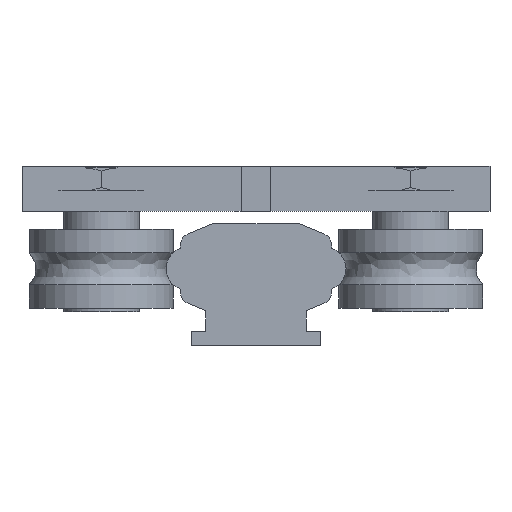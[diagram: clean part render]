
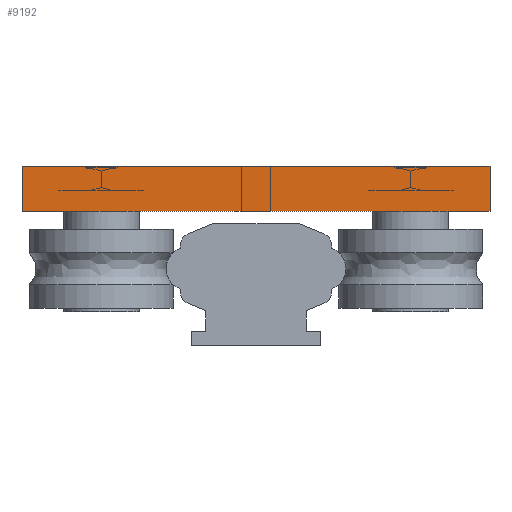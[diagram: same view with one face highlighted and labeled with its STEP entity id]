
A CAD part, left-side view. The second image highlights one B-rep face of the part: STEP entity #9192.
In plain terms, the highlighted planar face has unit normal (-1, 0, 0).
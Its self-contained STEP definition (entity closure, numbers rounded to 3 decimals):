
#9024=CARTESIAN_POINT('',(0.0,-32.5,14.25));
#9025=VERTEX_POINT('',#9024);
#9032=CARTESIAN_POINT('',(0.0,-32.5,8.0));
#9033=VERTEX_POINT('',#9032);
#9034=CARTESIAN_POINT('',(0.0,-32.5,14.25));
#9035=DIRECTION('',(0.0,0.0,-1.0));
#9036=VECTOR('',#9035,6.25);
#9037=LINE('',#9034,#9036);
#9038=EDGE_CURVE('',#9025,#9033,#9037,.T.);
#9062=CARTESIAN_POINT('',(0.0,32.5,14.25));
#9063=VERTEX_POINT('',#9062);
#9070=CARTESIAN_POINT('',(0.0,32.5,14.25));
#9071=DIRECTION('',(0.0,-1.0,0.0));
#9072=VECTOR('',#9071,65.0);
#9073=LINE('',#9070,#9072);
#9074=EDGE_CURVE('',#9063,#9025,#9073,.T.);
#9117=CARTESIAN_POINT('',(0.0,32.5,8.0));
#9118=VERTEX_POINT('',#9117);
#9125=CARTESIAN_POINT('',(0.0,32.5,8.0));
#9126=DIRECTION('',(0.0,0.0,1.0));
#9127=VECTOR('',#9126,6.25);
#9128=LINE('',#9125,#9127);
#9129=EDGE_CURVE('',#9118,#9063,#9128,.T.);
#9147=CARTESIAN_POINT('',(0.0,-32.5,8.0));
#9148=DIRECTION('',(0.0,1.0,0.0));
#9149=VECTOR('',#9148,65.0);
#9150=LINE('',#9147,#9149);
#9151=EDGE_CURVE('',#9033,#9118,#9150,.T.);
#9181=CARTESIAN_POINT('',(0.0,0.0,11.125));
#9182=DIRECTION('',(1.0,0.0,0.0));
#9183=DIRECTION('',(0.0,0.0,-1.0));
#9184=AXIS2_PLACEMENT_3D('',#9181,#9182,#9183);
#9185=PLANE('',#9184);
#9186=ORIENTED_EDGE('',*,*,#9151,.F.);
#9187=ORIENTED_EDGE('',*,*,#9038,.F.);
#9188=ORIENTED_EDGE('',*,*,#9074,.F.);
#9189=ORIENTED_EDGE('',*,*,#9129,.F.);
#9190=EDGE_LOOP('',(#9186,#9187,#9188,#9189));
#9191=FACE_OUTER_BOUND('',#9190,.T.);
#9192=ADVANCED_FACE('',(#9191),#9185,.F.);
